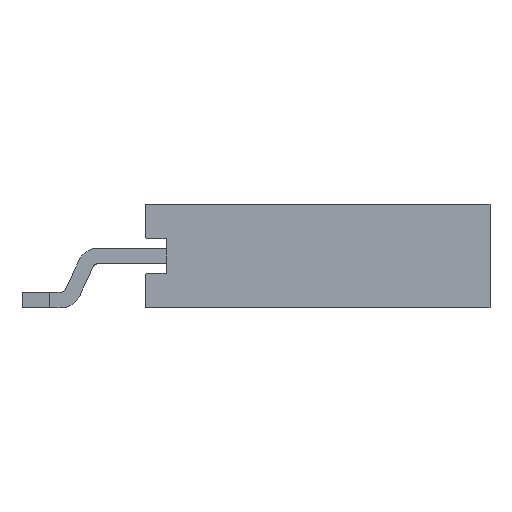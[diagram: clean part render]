
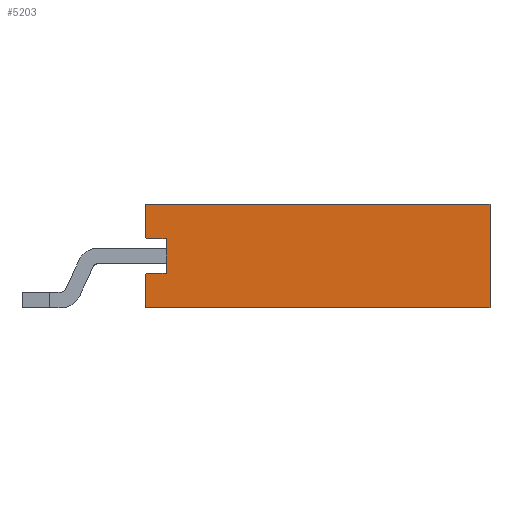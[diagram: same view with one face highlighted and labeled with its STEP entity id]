
A CAD part, front view. The second image highlights one B-rep face of the part: STEP entity #5203.
In plain terms, the highlighted planar face has unit normal (0, -1, 0).
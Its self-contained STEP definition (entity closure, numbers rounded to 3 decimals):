
#4987 = VERTEX_POINT('',#4988);
#4988 = CARTESIAN_POINT('',(11.45,-1.47,0.));
#4994 = EDGE_CURVE('',#4987,#4995,#4997,.T.);
#4995 = VERTEX_POINT('',#4996);
#4996 = CARTESIAN_POINT('',(11.45,-1.47,2.65));
#4997 = LINE('',#4998,#4999);
#4998 = CARTESIAN_POINT('',(11.45,-1.47,0.));
#4999 = VECTOR('',#5000,1.);
#5000 = DIRECTION('',(0.,0.,1.));
#5123 = VERTEX_POINT('',#5124);
#5124 = CARTESIAN_POINT('',(2.65,-1.47,0.));
#5130 = EDGE_CURVE('',#5123,#4987,#5131,.T.);
#5131 = LINE('',#5132,#5133);
#5132 = CARTESIAN_POINT('',(2.65,-1.47,0.));
#5133 = VECTOR('',#5134,1.);
#5134 = DIRECTION('',(1.,0.,0.));
#5203 = ADVANCED_FACE('',(#5204),#5254,.F.);
#5204 = FACE_BOUND('',#5205,.F.);
#5205 = EDGE_LOOP('',(#5206,#5216,#5222,#5223,#5224,#5232,#5240,#5248));
#5206 = ORIENTED_EDGE('',*,*,#5207,.F.);
#5207 = EDGE_CURVE('',#5208,#5210,#5212,.T.);
#5208 = VERTEX_POINT('',#5209);
#5209 = CARTESIAN_POINT('',(2.65,-1.47,2.65));
#5210 = VERTEX_POINT('',#5211);
#5211 = CARTESIAN_POINT('',(2.65,-1.47,1.785));
#5212 = LINE('',#5213,#5214);
#5213 = CARTESIAN_POINT('',(2.65,-1.47,2.65));
#5214 = VECTOR('',#5215,1.);
#5215 = DIRECTION('',(0.,0.,-1.));
#5216 = ORIENTED_EDGE('',*,*,#5217,.F.);
#5217 = EDGE_CURVE('',#4995,#5208,#5218,.T.);
#5218 = LINE('',#5219,#5220);
#5219 = CARTESIAN_POINT('',(11.45,-1.47,2.65));
#5220 = VECTOR('',#5221,1.);
#5221 = DIRECTION('',(-1.,0.,0.));
#5222 = ORIENTED_EDGE('',*,*,#4994,.F.);
#5223 = ORIENTED_EDGE('',*,*,#5130,.F.);
#5224 = ORIENTED_EDGE('',*,*,#5225,.F.);
#5225 = EDGE_CURVE('',#5226,#5123,#5228,.T.);
#5226 = VERTEX_POINT('',#5227);
#5227 = CARTESIAN_POINT('',(2.65,-1.47,0.865));
#5228 = LINE('',#5229,#5230);
#5229 = CARTESIAN_POINT('',(2.65,-1.47,2.65));
#5230 = VECTOR('',#5231,1.);
#5231 = DIRECTION('',(0.,0.,-1.));
#5232 = ORIENTED_EDGE('',*,*,#5233,.T.);
#5233 = EDGE_CURVE('',#5226,#5234,#5236,.T.);
#5234 = VERTEX_POINT('',#5235);
#5235 = CARTESIAN_POINT('',(3.18,-1.47,0.883));
#5236 = LINE('',#5237,#5238);
#5237 = CARTESIAN_POINT('',(4.855,-1.47,0.942));
#5238 = VECTOR('',#5239,1.);
#5239 = DIRECTION('',(0.999,0.,0.035
    ));
#5240 = ORIENTED_EDGE('',*,*,#5241,.T.);
#5241 = EDGE_CURVE('',#5234,#5242,#5244,.T.);
#5242 = VERTEX_POINT('',#5243);
#5243 = CARTESIAN_POINT('',(3.18,-1.47,1.767));
#5244 = LINE('',#5245,#5246);
#5245 = CARTESIAN_POINT('',(3.18,-1.47,1.104));
#5246 = VECTOR('',#5247,1.);
#5247 = DIRECTION('',(0.,0.,1.));
#5248 = ORIENTED_EDGE('',*,*,#5249,.T.);
#5249 = EDGE_CURVE('',#5242,#5210,#5250,.T.);
#5250 = LINE('',#5251,#5252);
#5251 = CARTESIAN_POINT('',(5.12,-1.47,1.699));
#5252 = VECTOR('',#5253,1.);
#5253 = DIRECTION('',(-0.999,0.,
    0.035));
#5254 = PLANE('',#5255);
#5255 = AXIS2_PLACEMENT_3D('',#5256,#5257,#5258);
#5256 = CARTESIAN_POINT('',(7.05,-1.47,1.325));
#5257 = DIRECTION('',(0.,1.,0.));
#5258 = DIRECTION('',(0.,0.,1.));
